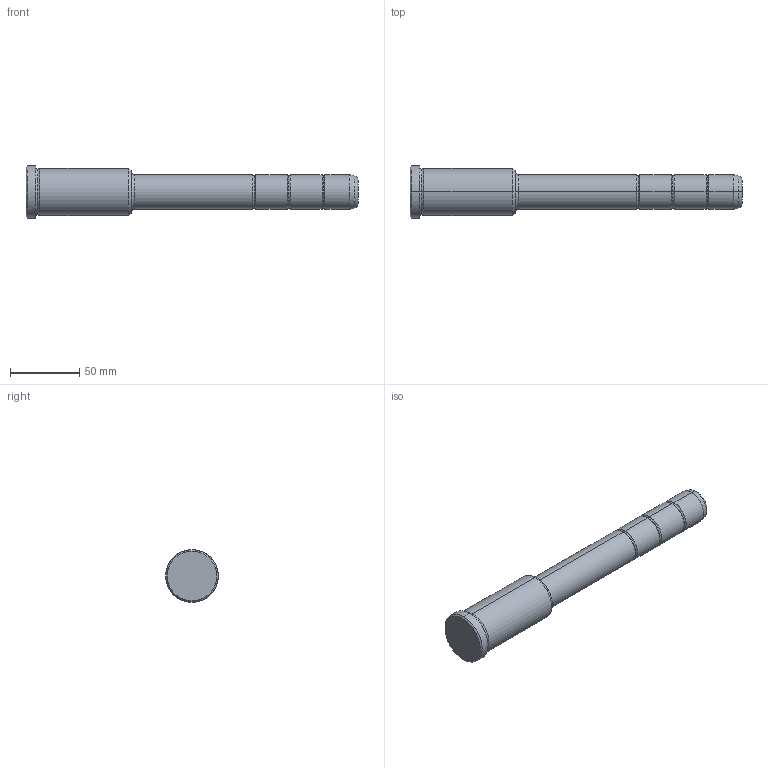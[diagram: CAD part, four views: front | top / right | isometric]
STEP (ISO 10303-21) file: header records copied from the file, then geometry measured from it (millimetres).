
FILE_DESCRIPTION(('CATIA V5 STEP Exchange'),'2;1');
FILE_NAME('C:\Users\Utente\Desktop\IO LAVORO\3D X SITO CF\X SITO\PLASTICA\351\351-25X76X240.stp','2021-09-07T11:29:56+00:00',('none'),('none'),'CATIA Version 5 Release 20 GA (IN-10)','CATIA V5 STEP AP203','none');
FILE_SCHEMA(('CONFIG_CONTROL_DESIGN'));
Length unit declared in the file: millimetre
Products named in the file (1): 351-25X76X240
Bounding box: 240 x 38 x 38 mm (x, y, z)
Volume: 150208.4 mm3; surface area: 23095.8 mm2
Topology: 1 solids, 1 shells, 42 faces, 118 edges, 80 vertices
Faces by surface type: torus 20, cylinder 12, cone 6, plane 4
Entity records: 1472 total; most frequent: CARTESIAN_POINT 353, ORIENTED_EDGE 236, DIRECTION 194, AXIS2_PLACEMENT_3D 135, EDGE_CURVE 118, CIRCLE 92, VERTEX_POINT 80, EDGE_LOOP 44
